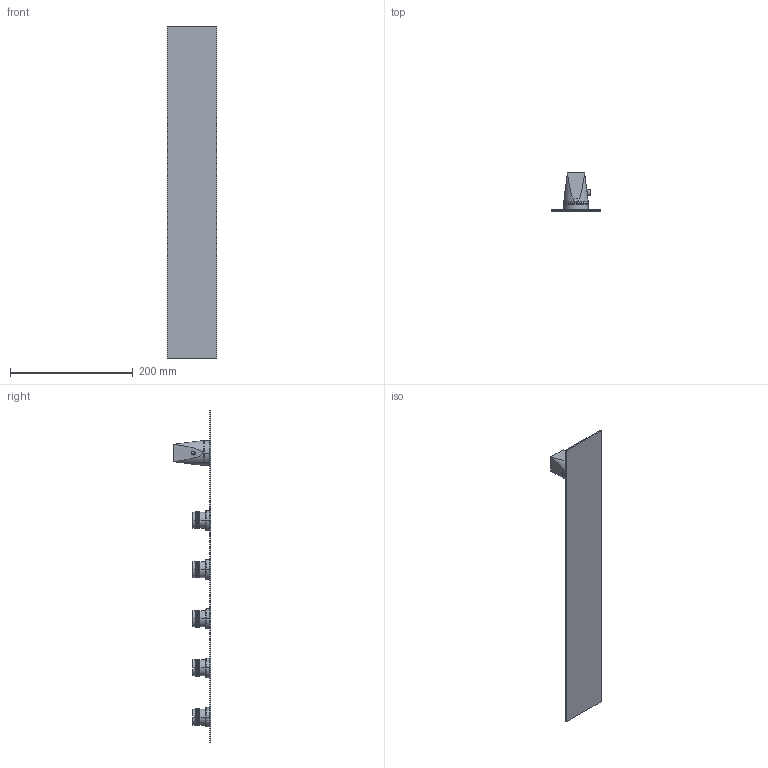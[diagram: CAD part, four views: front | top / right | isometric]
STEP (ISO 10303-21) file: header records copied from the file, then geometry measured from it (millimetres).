
FILE_DESCRIPTION((''),'2;1');
FILE_NAME('49600V521_SW0001','2023-09-19T13:33:42',('carloff'),(''),'CREO PARAMETRIC BY PTC INC, 2022014','CREO PARAMETRIC BY PTC INC, 2022014','');
FILE_SCHEMA(('CONFIG_CONTROL_DESIGN'));
Products named in the file (1): 49600V521_SW0001
Bounding box: 80 x 61.6 x 540 mm (x, y, z)
Volume: 216591.2 mm3; surface area: 115910.4 mm2
Topology: 2 solids, 2 shells, 8282 faces, 20632 edges, 13631 vertices
Faces by surface type: bspline 6400, cylinder 1779, plane 51, torus 30, sphere 12, cone 10
Entity records: 350942 total; most frequent: CARTESIAN_POINT 197376, ORIENTED_EDGE 41236, EDGE_CURVE 20618, VERTEX_POINT 13631, B_SPLINE_CURVE_WITH_KNOTS 12992, DIRECTION 12193, EDGE_LOOP 9575, FACE_OUTER_BOUND 8282
